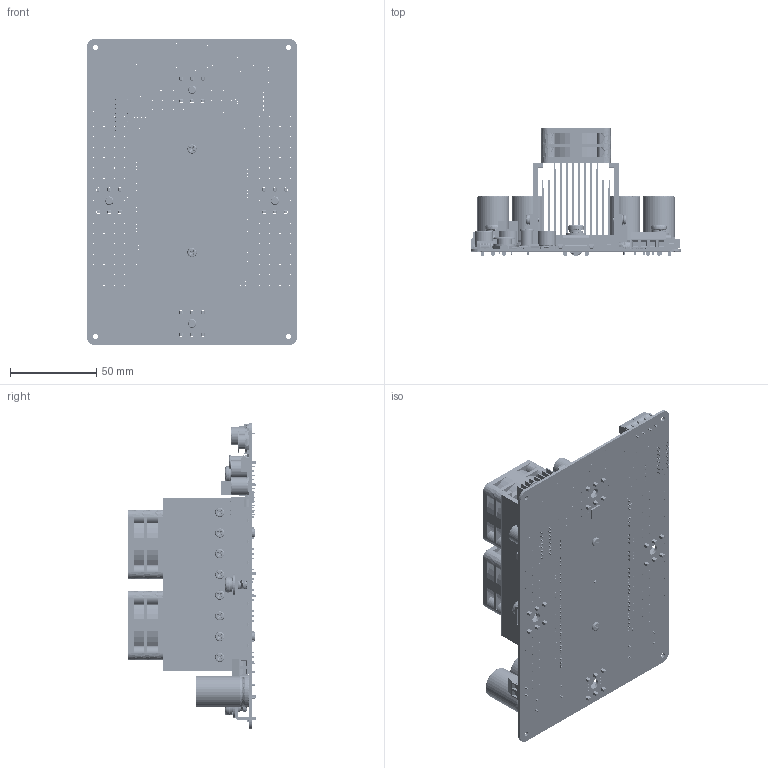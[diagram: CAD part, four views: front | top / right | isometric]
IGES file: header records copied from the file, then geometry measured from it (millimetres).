
Start section: SolidWorks IGES file using analytic representation for surfaces
Global section: file name: D:\Cytron\Technical\MDS160A - SmartDrive160\mds160a\Mechanical CAD\MDS160A.IGS; native system: SolidWorks 2015; preprocessor: SolidWorks 2015; author: DIANMIAO; date: 190625.222709; units: millimetre
Bounding box: 121.92 x 73.8 x 177.8 mm (x, y, z)
Surface area: 238717.2 mm2 (no closed solid volume)
Topology: 0 solids, 0 shells, 8387 faces, 86049 edges, 85935 vertices
Faces by surface type: bspline 5707, revolution 2680
